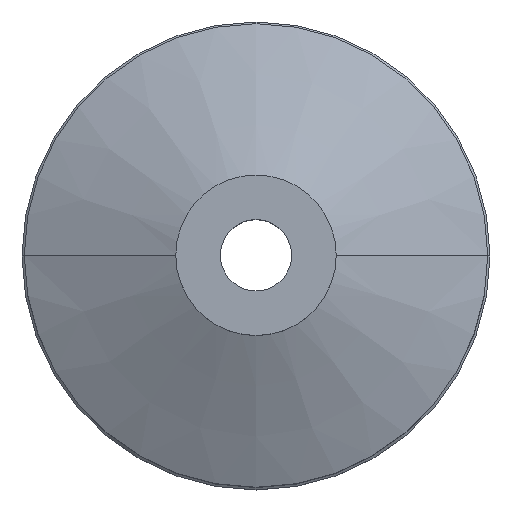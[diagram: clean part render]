
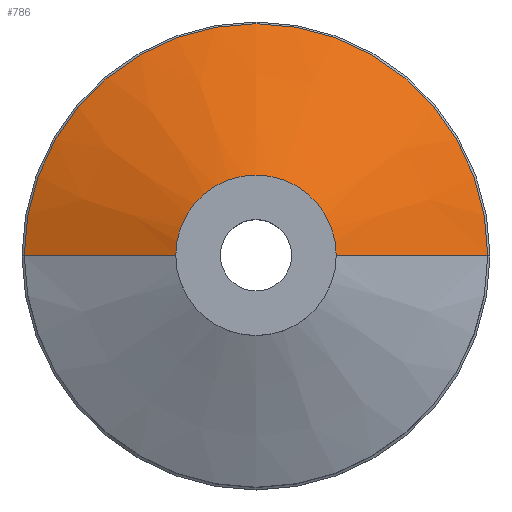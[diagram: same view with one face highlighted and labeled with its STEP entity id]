
A CAD part, top view. The second image highlights one B-rep face of the part: STEP entity #786.
In plain terms, the highlighted conical face has half-angle 65.982 degrees and reference radius 9 mm.
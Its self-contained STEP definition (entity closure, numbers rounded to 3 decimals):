
#3 = DIRECTION ( 'NONE',  ( -1., 0., 0. ) ) ;
#5 = ORIENTED_EDGE ( 'NONE', *, *, #625, .F. ) ;
#9 = CARTESIAN_POINT ( 'NONE',  ( 9., 0., -7.453 ) ) ;
#79 = LINE ( 'NONE', #381, #259 ) ;
#113 = DIRECTION ( 'NONE',  ( -1., 0., 0. ) ) ;
#121 = VECTOR ( 'NONE', #708, 1000. ) ;
#123 = CIRCLE ( 'NONE', #870, 25.999 ) ;
#135 = VERTEX_POINT ( 'NONE', #895 ) ;
#199 = FACE_OUTER_BOUND ( 'NONE', #494, .T. ) ;
#246 = DIRECTION ( 'NONE',  ( 0., 0., 1. ) ) ;
#258 = VERTEX_POINT ( 'NONE', #9 ) ;
#259 = VECTOR ( 'NONE', #678, 1000. ) ;
#285 = DIRECTION ( 'NONE',  ( 0., 0., -1. ) ) ;
#290 = CARTESIAN_POINT ( 'NONE',  ( -25.999, 0., -15.028 ) ) ;
#303 = DIRECTION ( 'NONE',  ( 0., 0., 1. ) ) ;
#339 = VERTEX_POINT ( 'NONE', #923 ) ;
#354 = ORIENTED_EDGE ( 'NONE', *, *, #679, .T. ) ;
#359 = CONICAL_SURFACE ( 'NONE', #490, 9., 1.152 ) ;
#381 = CARTESIAN_POINT ( 'NONE',  ( -9., 0., -7.453 ) ) ;
#413 = LINE ( 'NONE', #773, #121 ) ;
#465 = ORIENTED_EDGE ( 'NONE', *, *, #596, .T. ) ;
#474 = VERTEX_POINT ( 'NONE', #290 ) ;
#490 = AXIS2_PLACEMENT_3D ( 'NONE', #798, #285, #656 ) ;
#494 = EDGE_LOOP ( 'NONE', ( #5, #768, #354, #465 ) ) ;
#595 = CIRCLE ( 'NONE', #945, 9. ) ;
#596 = EDGE_CURVE ( 'NONE', #339, #474, #123, .T. ) ;
#625 = EDGE_CURVE ( 'NONE', #135, #474, #79, .T. ) ;
#656 = DIRECTION ( 'NONE',  ( 1., 0., 0. ) ) ;
#678 = DIRECTION ( 'NONE',  ( -0.913, 0., -0.407 ) ) ;
#679 = EDGE_CURVE ( 'NONE', #258, #339, #413, .T. ) ;
#708 = DIRECTION ( 'NONE',  ( 0.913, 0., -0.407 ) ) ;
#712 = EDGE_CURVE ( 'NONE', #258, #135, #595, .T. ) ;
#768 = ORIENTED_EDGE ( 'NONE', *, *, #712, .F. ) ;
#773 = CARTESIAN_POINT ( 'NONE',  ( 9., 0., -7.453 ) ) ;
#785 = CARTESIAN_POINT ( 'NONE',  ( 0., 0., -7.453 ) ) ;
#786 = ADVANCED_FACE ( 'NONE', ( #199 ), #359, .T. ) ;
#798 = CARTESIAN_POINT ( 'NONE',  ( 0., 0., -7.453 ) ) ;
#870 = AXIS2_PLACEMENT_3D ( 'NONE', #891, #303, #3 ) ;
#891 = CARTESIAN_POINT ( 'NONE',  ( 0., 0., -15.028 ) ) ;
#895 = CARTESIAN_POINT ( 'NONE',  ( -9., 0., -7.453 ) ) ;
#923 = CARTESIAN_POINT ( 'NONE',  ( 25.999, 0., -15.028 ) ) ;
#945 = AXIS2_PLACEMENT_3D ( 'NONE', #785, #246, #113 ) ;
